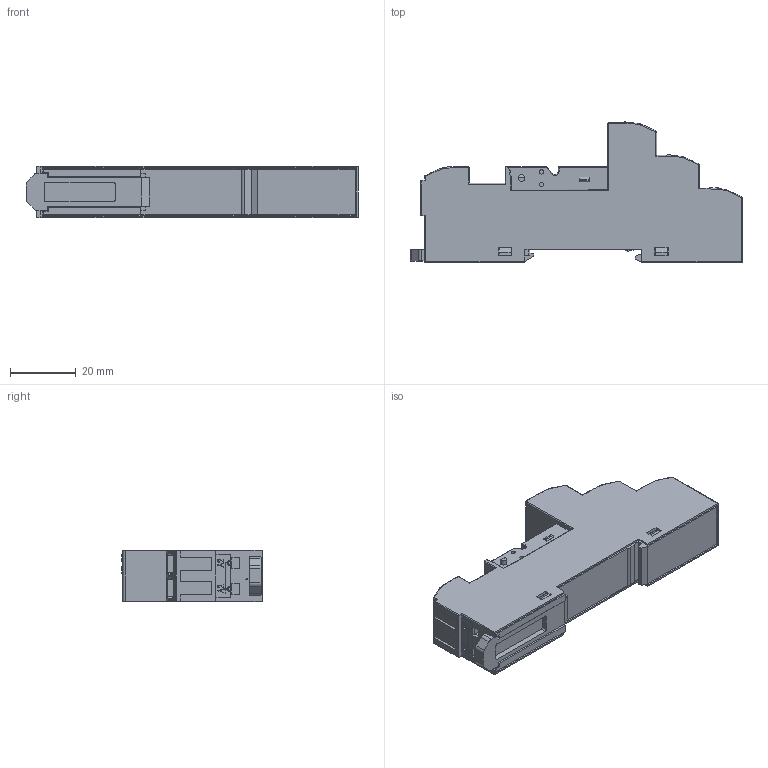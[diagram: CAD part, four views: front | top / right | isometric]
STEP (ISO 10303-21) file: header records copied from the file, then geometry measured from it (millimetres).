
FILE_DESCRIPTION (( 'STEP AP214' ), '1' );
FILE_NAME ('SRC05-ST 俋倛(陔賦凳).STEP', '2025-05-17T09:41:22', ( 'admin' ), ( '' ), 'SwSTEP 2.0', 'SolidWorks 2022', '' );
FILE_SCHEMA (( 'AUTOMOTIVE_DESIGN' ));
Length unit declared in the file: millimetre
Products named in the file (1): SRC05-ST 俋倛(陔賦凳)
Bounding box: 101.2 x 42.68 x 15.85 mm (x, y, z)
Volume: 37871.6 mm3; surface area: 24618.9 mm2
Topology: 1 solids, 3 shells, 2658 faces, 7804 edges, 5073 vertices
Faces by surface type: plane 1849, cylinder 638, torus 58, bspline 49, cone 38, sphere 26
Entity records: 108831 total; most frequent: CARTESIAN_POINT 38487, ORIENTED_EDGE 15560, DIRECTION 13368, EDGE_CURVE 7780, LINE 5980, VECTOR 5980, VERTEX_POINT 5073, AXIS2_PLACEMENT_3D 3694
